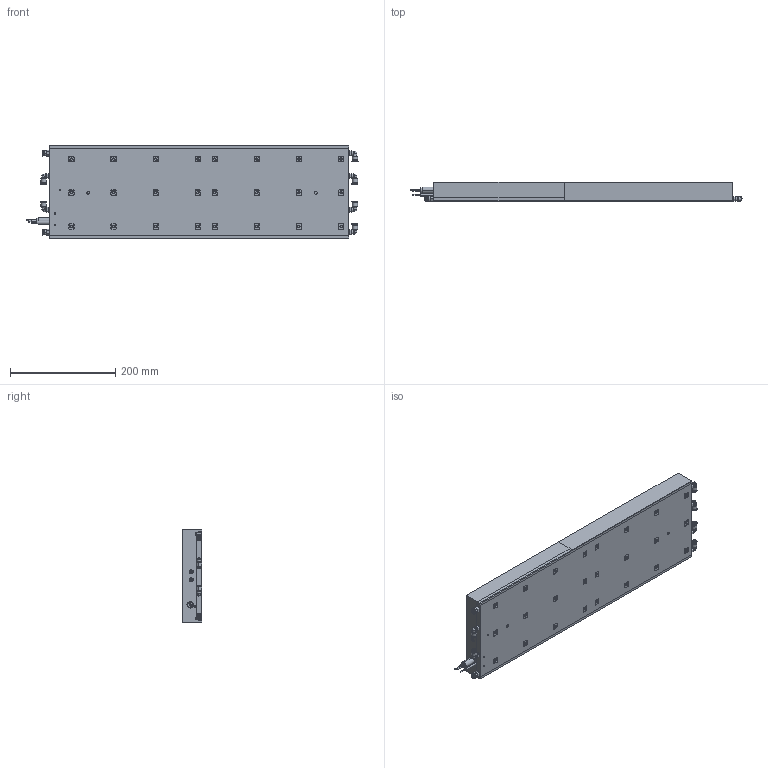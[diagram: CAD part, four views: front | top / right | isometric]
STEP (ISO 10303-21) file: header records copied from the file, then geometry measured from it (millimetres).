
FILE_DESCRIPTION (( 'STEP AP203' ), '1' );
FILE_NAME ('IC177WC-30 3D.STEP', '2021-12-13T02:15:33', ( '' ), ( '' ), 'SwSTEP 2.0', 'SolidWorks 2021', '' );
FILE_SCHEMA (( 'CONFIG_CONTROL_DESIGN' ));
Length unit declared in the file: millimetre
Products named in the file (1): IC177WC-30 3D
Bounding box: 630.4 x 37 x 177.15 mm (x, y, z)
Volume: 3696664.5 mm3; surface area: 569173 mm2
Topology: 23 solids, 23 shells, 1447 faces, 3648 edges, 2270 vertices
Faces by surface type: plane 622, cylinder 503, cone 234, torus 58, sphere 30
Entity records: 44319 total; most frequent: CARTESIAN_POINT 9054, DIRECTION 7484, ORIENTED_EDGE 7236, EDGE_CURVE 3618, AXIS2_PLACEMENT_3D 2720, VERTEX_POINT 2270, VECTOR 2044, LINE 2044
